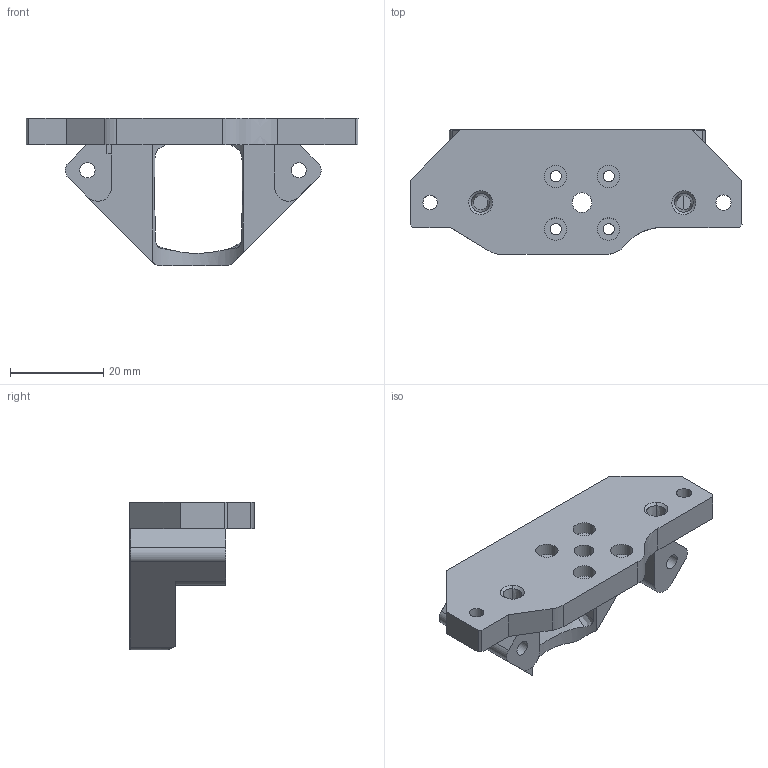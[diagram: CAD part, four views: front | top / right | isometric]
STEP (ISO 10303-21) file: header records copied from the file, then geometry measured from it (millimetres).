
FILE_DESCRIPTION(/* description */ (''),/* implementation_level */ '2;1');
FILE_NAME(/* name */ 'C:/Users/Martin/Documents/icarus-2.1/icarus-2-current-step-files/2-mounts/mount-sherpa-mini-r1-dragon-2.1.step',/* time_stamp */ '2022-08-22T21:31:49+02:00',/* author */ (''),/* organization */ (''),/* preprocessor_version */ 'ST-DEVELOPER v19',/* originating_system */ 'Autodesk Translation Framework v11.7.0.108',/* authorisation */ '');
FILE_SCHEMA (('AUTOMOTIVE_DESIGN { 1 0 10303 214 3 1 1 }'));
Length unit declared in the file: millimetre
Products named in the file (1): icarus-2-hotend-extruder-mounts
Bounding box: 71.07 x 26.66 x 31.68 mm (x, y, z)
Volume: 13627.4 mm3; surface area: 7555.2 mm2
Topology: 1 solids, 1 shells, 92 faces, 261 edges, 172 vertices
Faces by surface type: plane 39, cylinder 23, bspline 22, cone 8
Full cylindrical faces by diameter (mm): 2.4 x4, 3.1 x1, 3.25 x4, 4.2 x1, 4.8 x4
Entity records: 4288 total; most frequent: CARTESIAN_POINT 1939, ORIENTED_EDGE 522, DIRECTION 402, EDGE_CURVE 261, VERTEX_POINT 172, LINE 138, VECTOR 138, AXIS2_PLACEMENT_3D 132
